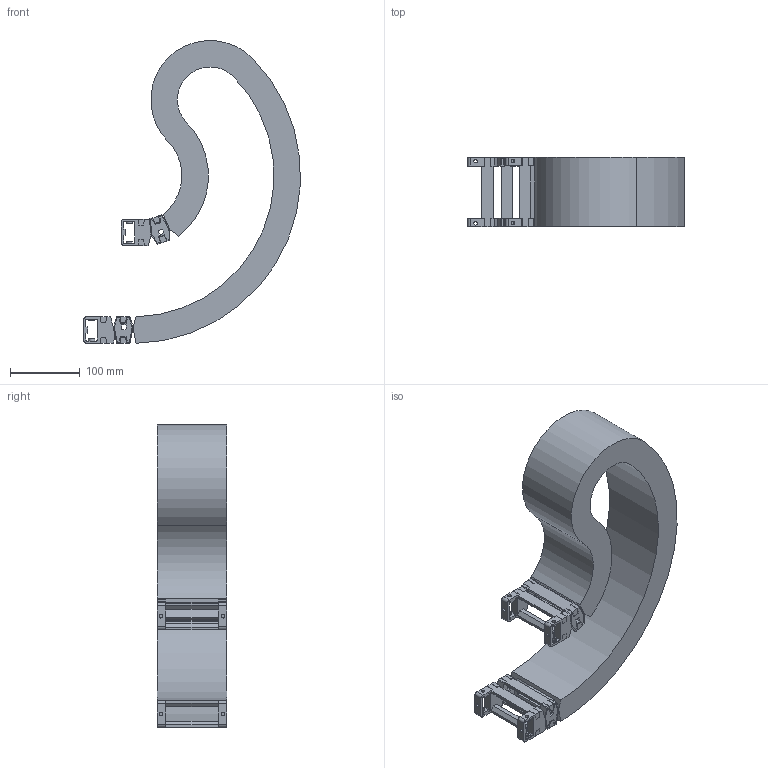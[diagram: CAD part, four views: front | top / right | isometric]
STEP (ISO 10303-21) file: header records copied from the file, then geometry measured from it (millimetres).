
FILE_DESCRIPTION( ( 'STEP AP214' ), '1' );
FILE_NAME( 'e:/temp/worker_65/temp/exporttempdir_7276_45_gaSe0/format_1/RV028CRA991057050170200-00751280.02446.stp', '2021-07-26T13:32:56', ( 'License CC BY-ND 4.0' ), ( 'CADENAS' ), ' ', 'PARTsolutions', ' ' );
FILE_SCHEMA( ( 'AUTOMOTIVE_DESIGN { 1 0 10303 214 1 1 1 1 }' ) );
Length unit declared in the file: millimetre
Products named in the file (5): RV028CRA991057050170200-00751280.02446; _RV028CRA991057050170200-0075793.324-Chain; _RV028CR-SU-28-75; _RV028CR_FB-99; _RV028CR_MB-99
Assembly tree (5 placements, depth 2):
  RV028CRA991057050170200-00751280.02446
    _RV028CRA991057050170200-0075793.324-Chain
    _RV028CR-SU-28-75  x2
    _RV028CR_FB-99
    _RV028CR_MB-99
Bounding box: 310.39 x 99 x 433.46 mm (x, y, z)
Volume: 1616399.4 mm3; surface area: 486250.4 mm2
Topology: 5 solids, 5 shells, 612 faces, 1844 edges, 1204 vertices
Faces by surface type: plane 472, cylinder 140
Full cylindrical faces by diameter (mm): 5 x12
Entity records: 18814 total; most frequent: CARTESIAN_POINT 2676, ORIENTED_EDGE 2672, DIRECTION 2480, EDGE_CURVE 1336, LINE 1112, VECTOR 1112, VERTEX_POINT 880, AXIS2_PLACEMENT_3D 684
